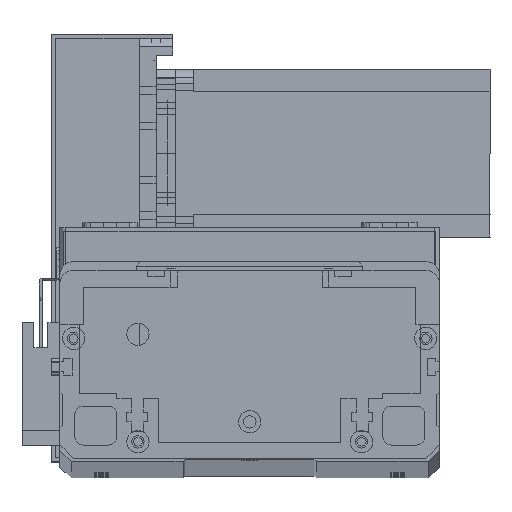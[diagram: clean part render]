
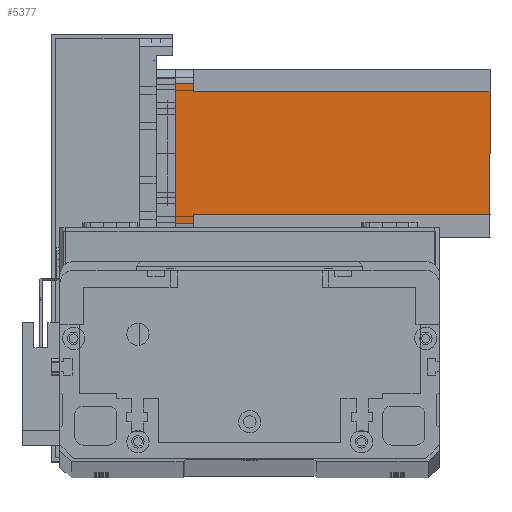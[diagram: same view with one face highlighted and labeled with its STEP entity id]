
A CAD part, top view. The second image highlights one B-rep face of the part: STEP entity #5377.
In plain terms, the highlighted planar face has unit normal (0, 0, 1) as drawn and (0, -1, 0) by its records, which use the part's own axes.
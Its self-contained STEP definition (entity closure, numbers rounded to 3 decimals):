
#365 = CARTESIAN_POINT ( 'NONE',  ( 8., 0., -112.5 ) ) ;
#372 = DIRECTION ( 'NONE',  ( 0., 0., 1. ) ) ;
#1091 = DIRECTION ( 'NONE',  ( 1., 0., 0. ) ) ;
#1159 = CARTESIAN_POINT ( 'NONE',  ( 0., 0., 0. ) ) ;
#2012 = VERTEX_POINT ( 'NONE', #4048 ) ;
#2330 = ORIENTED_EDGE ( 'NONE', *, *, #14625, .F. ) ;
#3246 = LINE ( 'NONE', #6396, #28292 ) ;
#3592 = LINE ( 'NONE', #23703, #29337 ) ;
#4022 = CARTESIAN_POINT ( 'NONE',  ( 52., 0., -112.5 ) ) ;
#4048 = CARTESIAN_POINT ( 'NONE',  ( 8., 0., -6.5 ) ) ;
#5377 = ADVANCED_FACE ( 'NONE', ( #16763 ), #20716, .T. ) ;
#5690 = CARTESIAN_POINT ( 'NONE',  ( 52., 0., -6.5 ) ) ;
#5796 = LINE ( 'NONE', #29367, #18814 ) ;
#5801 = VERTEX_POINT ( 'NONE', #15575 ) ;
#5986 = DIRECTION ( 'NONE',  ( 1., 0., 0. ) ) ;
#6396 = CARTESIAN_POINT ( 'NONE',  ( 52., 0., -6.5 ) ) ;
#7577 = ORIENTED_EDGE ( 'NONE', *, *, #13204, .F. ) ;
#7600 = DIRECTION ( 'NONE',  ( -1., 0., 0. ) ) ;
#7869 = CARTESIAN_POINT ( 'NONE',  ( 8., 0., -6.5 ) ) ;
#9352 = EDGE_CURVE ( 'NONE', #11916, #15620, #10066, .T. ) ;
#9359 = LINE ( 'NONE', #10037, #16593 ) ;
#9662 = VERTEX_POINT ( 'NONE', #29136 ) ;
#10037 = CARTESIAN_POINT ( 'NONE',  ( 0., 0., -112.5 ) ) ;
#10066 = LINE ( 'NONE', #1159, #29176 ) ;
#10324 = DIRECTION ( 'NONE',  ( 1., 0., 0. ) ) ;
#11420 = VECTOR ( 'NONE', #27233, 1000. ) ;
#11566 = EDGE_CURVE ( 'NONE', #19479, #9662, #3246, .T. ) ;
#11916 = VERTEX_POINT ( 'NONE', #27987 ) ;
#11961 = EDGE_CURVE ( 'NONE', #9662, #15620, #18601, .T. ) ;
#12162 = ORIENTED_EDGE ( 'NONE', *, *, #11961, .T. ) ;
#12170 = EDGE_CURVE ( 'NONE', #11916, #5801, #3592, .T. ) ;
#12484 = ORIENTED_EDGE ( 'NONE', *, *, #11566, .T. ) ;
#13204 = EDGE_CURVE ( 'NONE', #2012, #5801, #27810, .T. ) ;
#13308 = ORIENTED_EDGE ( 'NONE', *, *, #9352, .F. ) ;
#13461 = VERTEX_POINT ( 'NONE', #4022 ) ;
#13648 = EDGE_CURVE ( 'NONE', #13760, #2012, #30012, .T. ) ;
#13661 = DIRECTION ( 'NONE',  ( 0., 0., -1. ) ) ;
#13760 = VERTEX_POINT ( 'NONE', #28161 ) ;
#14089 = DIRECTION ( 'NONE',  ( 0., -1., 0. ) ) ;
#14229 = EDGE_CURVE ( 'NONE', #13760, #13461, #9359, .T. ) ;
#14625 = EDGE_CURVE ( 'NONE', #19479, #13461, #5796, .T. ) ;
#15575 = CARTESIAN_POINT ( 'NONE',  ( 5., 0., -6.5 ) ) ;
#15620 = VERTEX_POINT ( 'NONE', #16296 ) ;
#16296 = CARTESIAN_POINT ( 'NONE',  ( 55., 0., 0. ) ) ;
#16593 = VECTOR ( 'NONE', #10324, 1000. ) ;
#16763 = FACE_OUTER_BOUND ( 'NONE', #29380, .T. ) ;
#18601 = LINE ( 'NONE', #27083, #11420 ) ;
#18814 = VECTOR ( 'NONE', #29356, 1000. ) ;
#19479 = VERTEX_POINT ( 'NONE', #5690 ) ;
#20176 = AXIS2_PLACEMENT_3D ( 'NONE', #20303, #14089, #13661 ) ;
#20301 = ORIENTED_EDGE ( 'NONE', *, *, #14229, .T. ) ;
#20303 = CARTESIAN_POINT ( 'NONE',  ( 0., 0., -112.5 ) ) ;
#20716 = PLANE ( 'NONE',  #20176 ) ;
#21527 = VECTOR ( 'NONE', #7600, 1000. ) ;
#23703 = CARTESIAN_POINT ( 'NONE',  ( 5., 0., -112.5 ) ) ;
#23713 = DIRECTION ( 'NONE',  ( 0., 0., -1. ) ) ;
#24487 = VECTOR ( 'NONE', #372, 1000. ) ;
#27083 = CARTESIAN_POINT ( 'NONE',  ( 55., 0., -112.5 ) ) ;
#27233 = DIRECTION ( 'NONE',  ( 0., 0., 1. ) ) ;
#27810 = LINE ( 'NONE', #7869, #21527 ) ;
#27987 = CARTESIAN_POINT ( 'NONE',  ( 5., 0., 0. ) ) ;
#28161 = CARTESIAN_POINT ( 'NONE',  ( 8., 0., -112.5 ) ) ;
#28292 = VECTOR ( 'NONE', #5986, 1000. ) ;
#29136 = CARTESIAN_POINT ( 'NONE',  ( 55., 0., -6.5 ) ) ;
#29176 = VECTOR ( 'NONE', #1091, 1000. ) ;
#29337 = VECTOR ( 'NONE', #23713, 1000. ) ;
#29356 = DIRECTION ( 'NONE',  ( 0., 0., -1. ) ) ;
#29367 = CARTESIAN_POINT ( 'NONE',  ( 52., 0., -112.5 ) ) ;
#29380 = EDGE_LOOP ( 'NONE', ( #12484, #12162, #13308, #31226, #7577, #30998, #20301, #2330 ) ) ;
#30012 = LINE ( 'NONE', #365, #24487 ) ;
#30998 = ORIENTED_EDGE ( 'NONE', *, *, #13648, .F. ) ;
#31226 = ORIENTED_EDGE ( 'NONE', *, *, #12170, .T. ) ;
